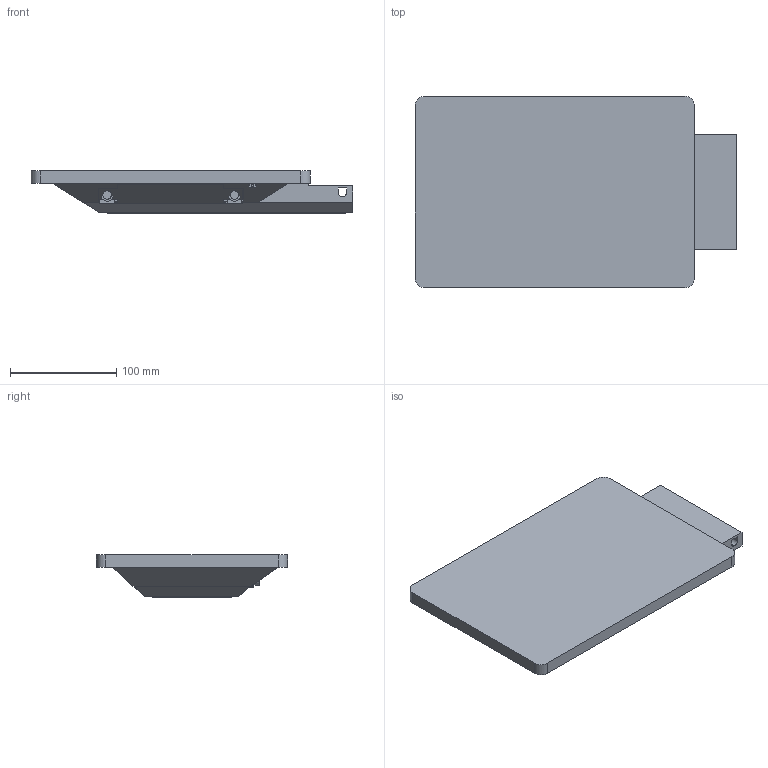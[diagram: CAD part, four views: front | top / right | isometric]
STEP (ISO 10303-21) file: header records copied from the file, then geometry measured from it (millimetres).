
FILE_DESCRIPTION (( 'STEP AP214' ), '1' );
FILE_NAME ('FG-901697-3D-A (MULLION MOUNT).STEP', '2026-07-13T22:35:41', ( '' ), ( '' ), 'SwSTEP 2.0', 'SolidWorks 2023', '' );
FILE_SCHEMA (( 'AUTOMOTIVE_DESIGN' ));
Length unit declared in the file: millimetre
Products named in the file (1): FG-901697-3D-A (MULLION MOUNT)
Bounding box: 303.36 x 180.25 x 40 mm (x, y, z)
Volume: 1285614.2 mm3; surface area: 185246.1 mm2
Topology: 1 solids, 1 shells, 295 faces, 857 edges, 560 vertices
Faces by surface type: plane 213, cylinder 82
Entity records: 9802 total; most frequent: CARTESIAN_POINT 1743, ORIENTED_EDGE 1714, DIRECTION 1623, EDGE_CURVE 857, VECTOR 663, LINE 663, VERTEX_POINT 560, AXIS2_PLACEMENT_3D 480
